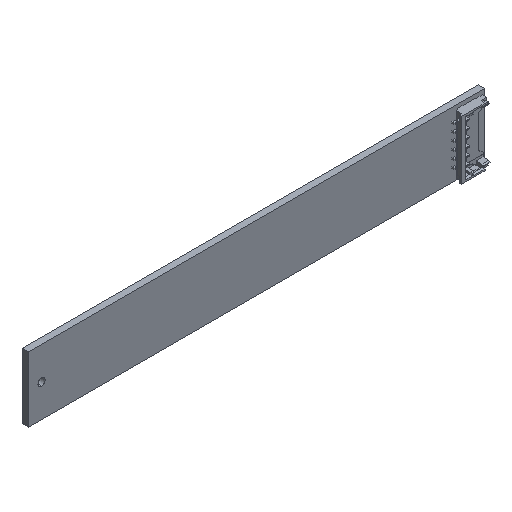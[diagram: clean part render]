
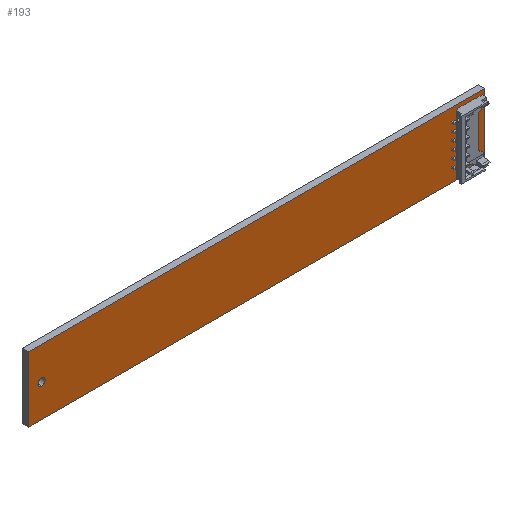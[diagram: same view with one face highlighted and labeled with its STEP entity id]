
A CAD part, isometric view. The second image highlights one B-rep face of the part: STEP entity #193.
In plain terms, the highlighted planar face has unit normal (0, -1, 0).
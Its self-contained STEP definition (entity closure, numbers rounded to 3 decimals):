
#100 = EDGE_CURVE ( 'NONE', #669, #8739, #4800, .T. ) ;
#193 = ADVANCED_FACE ( 'NONE', ( #7684, #4889 ), #6995, .F. ) ;
#292 = CARTESIAN_POINT ( 'NONE',  ( 38., -1., 5. ) ) ;
#312 = EDGE_CURVE ( 'NONE', #8739, #7052, #1668, .T. ) ;
#326 = VECTOR ( 'NONE', #2345, 1000. ) ;
#467 = VERTEX_POINT ( 'NONE', #1238 ) ;
#603 = ORIENTED_EDGE ( 'NONE', *, *, #4521, .F. ) ;
#669 = VERTEX_POINT ( 'NONE', #4466 ) ;
#977 = DIRECTION ( 'NONE',  ( 0., 1., 0. ) ) ;
#1093 = VECTOR ( 'NONE', #8694, 1000. ) ;
#1100 = CARTESIAN_POINT ( 'NONE',  ( -32., -1., -5. ) ) ;
#1238 = CARTESIAN_POINT ( 'NONE',  ( -30., -1., 0.55 ) ) ;
#1341 = CARTESIAN_POINT ( 'NONE',  ( -30., -1., 0. ) ) ;
#1500 = CARTESIAN_POINT ( 'NONE',  ( 38., -1., -5. ) ) ;
#1668 = LINE ( 'NONE', #292, #1093 ) ;
#1808 = ORIENTED_EDGE ( 'NONE', *, *, #4678, .F. ) ;
#1927 = AXIS2_PLACEMENT_3D ( 'NONE', #4733, #8137, #7491 ) ;
#1991 = DIRECTION ( 'NONE',  ( 0., 1., 0. ) ) ;
#2345 = DIRECTION ( 'NONE',  ( 0., 0., 1. ) ) ;
#2507 = CARTESIAN_POINT ( 'NONE',  ( -32., -1., -5. ) ) ;
#2780 = EDGE_LOOP ( 'NONE', ( #1808, #8243, #6285, #603 ) ) ;
#2984 = LINE ( 'NONE', #3680, #326 ) ;
#3217 = DIRECTION ( 'NONE',  ( -1., 0., 0. ) ) ;
#3252 = CIRCLE ( 'NONE', #1927, 0.55 ) ;
#3292 = ORIENTED_EDGE ( 'NONE', *, *, #4653, .T. ) ;
#3523 = EDGE_LOOP ( 'NONE', ( #5222, #3292 ) ) ;
#3680 = CARTESIAN_POINT ( 'NONE',  ( -32., -1., 5. ) ) ;
#3918 = CARTESIAN_POINT ( 'NONE',  ( -30., -1., -0.55 ) ) ;
#4109 = DIRECTION ( 'NONE',  ( 0., 0., 1. ) ) ;
#4283 = CARTESIAN_POINT ( 'NONE',  ( 0., -1., 5. ) ) ;
#4466 = CARTESIAN_POINT ( 'NONE',  ( -32., -1., 5. ) ) ;
#4521 = EDGE_CURVE ( 'NONE', #6466, #669, #2984, .T. ) ;
#4569 = VERTEX_POINT ( 'NONE', #3918 ) ;
#4653 = EDGE_CURVE ( 'NONE', #4569, #467, #3252, .T. ) ;
#4678 = EDGE_CURVE ( 'NONE', #7052, #6466, #6064, .T. ) ;
#4733 = CARTESIAN_POINT ( 'NONE',  ( -30., -1., 0. ) ) ;
#4800 = LINE ( 'NONE', #4283, #5614 ) ;
#4889 = FACE_OUTER_BOUND ( 'NONE', #2780, .T. ) ;
#5108 = EDGE_CURVE ( 'NONE', #467, #4569, #7227, .T. ) ;
#5222 = ORIENTED_EDGE ( 'NONE', *, *, #5108, .T. ) ;
#5614 = VECTOR ( 'NONE', #7727, 1000. ) ;
#5712 = CARTESIAN_POINT ( 'NONE',  ( 0., -1., 0. ) ) ;
#5852 = DIRECTION ( 'NONE',  ( 0., 0., 1. ) ) ;
#6064 = LINE ( 'NONE', #1100, #6777 ) ;
#6285 = ORIENTED_EDGE ( 'NONE', *, *, #100, .F. ) ;
#6466 = VERTEX_POINT ( 'NONE', #2507 ) ;
#6511 = CARTESIAN_POINT ( 'NONE',  ( 38., -1., 5. ) ) ;
#6777 = VECTOR ( 'NONE', #3217, 1000. ) ;
#6995 = PLANE ( 'NONE',  #8735 ) ;
#7052 = VERTEX_POINT ( 'NONE', #1500 ) ;
#7227 = CIRCLE ( 'NONE', #8386, 0.55 ) ;
#7491 = DIRECTION ( 'NONE',  ( 0., 0., 1. ) ) ;
#7684 = FACE_BOUND ( 'NONE', #3523, .T. ) ;
#7727 = DIRECTION ( 'NONE',  ( 1., 0., 0. ) ) ;
#8137 = DIRECTION ( 'NONE',  ( 0., 1., 0. ) ) ;
#8243 = ORIENTED_EDGE ( 'NONE', *, *, #312, .F. ) ;
#8386 = AXIS2_PLACEMENT_3D ( 'NONE', #1341, #1991, #4109 ) ;
#8694 = DIRECTION ( 'NONE',  ( 0., 0., -1. ) ) ;
#8735 = AXIS2_PLACEMENT_3D ( 'NONE', #5712, #977, #5852 ) ;
#8739 = VERTEX_POINT ( 'NONE', #6511 ) ;
